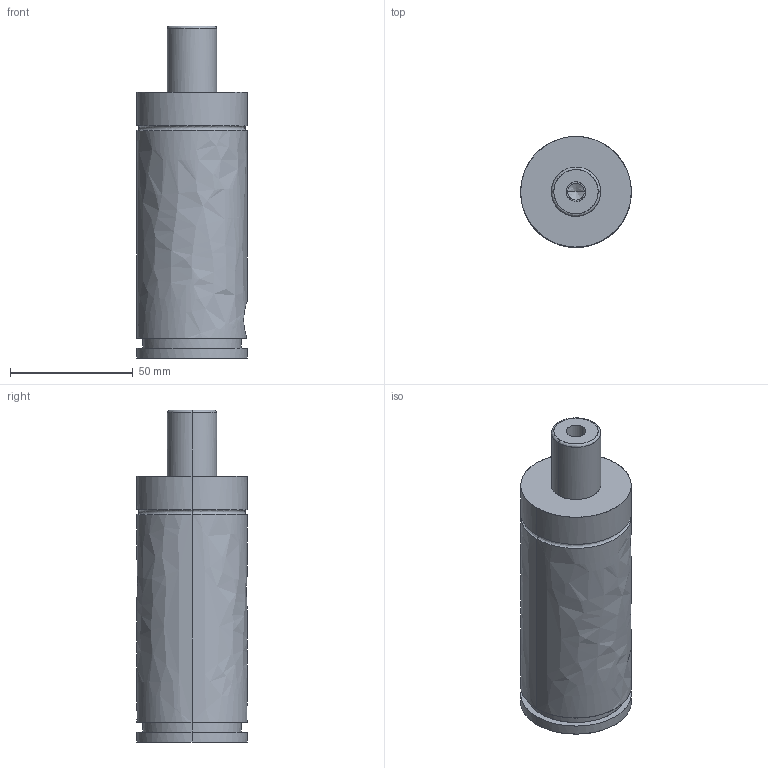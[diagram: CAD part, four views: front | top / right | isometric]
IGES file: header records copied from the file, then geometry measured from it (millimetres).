
Global section: file name: E:\UnigraphicsGraphicData\MISUMI_PRESS-PARTS\IGES\3d_gse45-25_03886_r00.igs; native system: NX V5.0; preprocessor: UGS NX IGES V5.0; author: MISUMI; date: 20110105.160757; units: millimetre
Bounding box: 45 x 45 x 135 mm (x, y, z)
Surface area: 22242.9 mm2 (no closed solid volume)
Topology: 0 solids, 0 shells, 57 faces, 450 edges, 448 vertices
Faces by surface type: bspline 57
